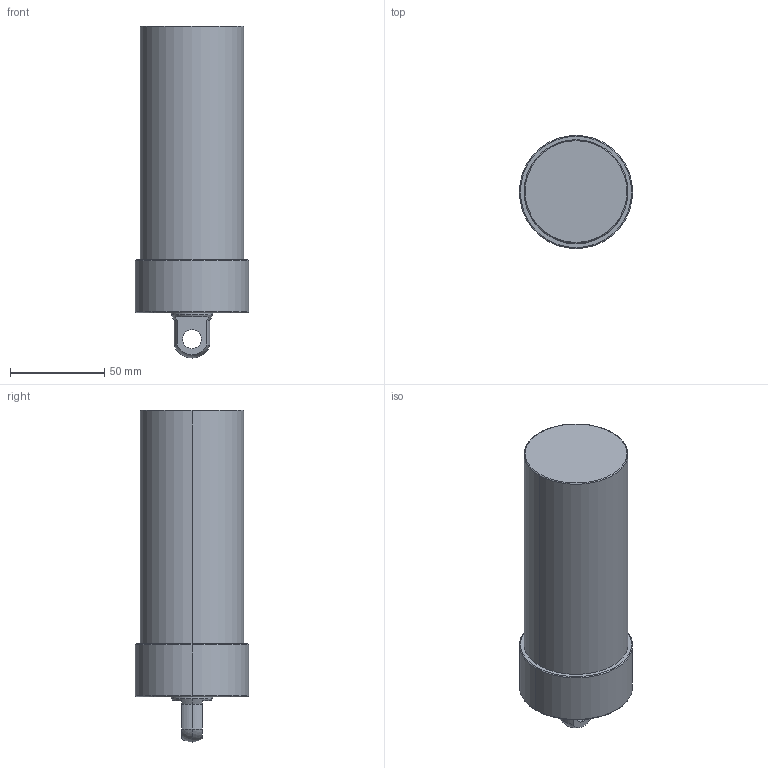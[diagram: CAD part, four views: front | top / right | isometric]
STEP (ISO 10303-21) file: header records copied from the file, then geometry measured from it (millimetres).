
FILE_DESCRIPTION (( 'STEP AP203' ), '1' );
FILE_NAME ('CLLU055-CP-095.STEP', '2017-05-15T07:57:42', ( '' ), ( '' ), 'SwSTEP 2.0', 'SolidWorks 2015', '' );
FILE_SCHEMA (( 'CONFIG_CONTROL_DESIGN' ));
Length unit declared in the file: millimetre
Products named in the file (1): CLLU055-CP-095
Bounding box: 60 x 60 x 176 mm (x, y, z)
Volume: 376000.3 mm3; surface area: 34679.4 mm2
Topology: 1 solids, 1 shells, 58 faces, 131 edges, 75 vertices
Faces by surface type: cylinder 23, cone 18, plane 9, torus 6, sphere 2
Entity records: 1658 total; most frequent: DIRECTION 311, CARTESIAN_POINT 269, ORIENTED_EDGE 246, AXIS2_PLACEMENT_3D 133, EDGE_CURVE 123, VERTEX_POINT 75, CIRCLE 74, EDGE_LOOP 68
